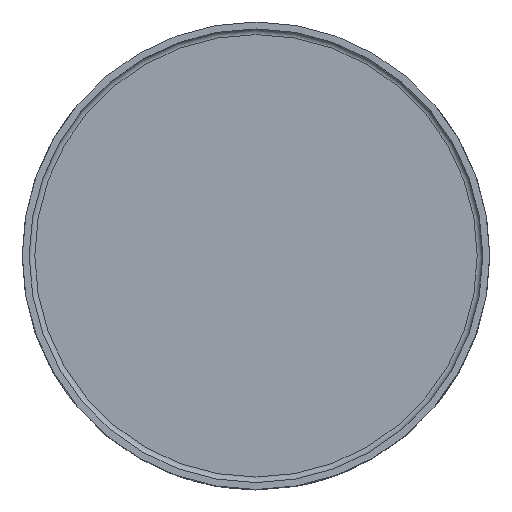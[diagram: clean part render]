
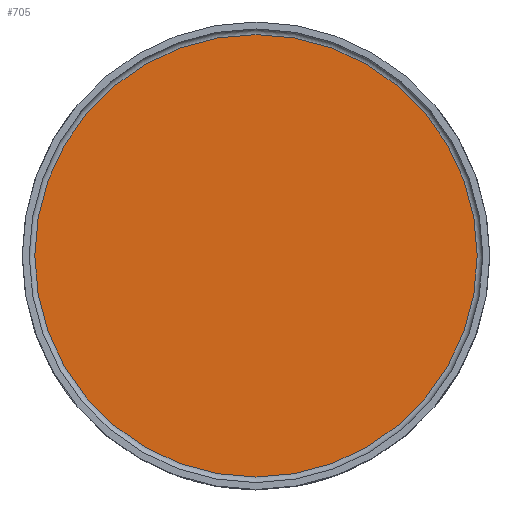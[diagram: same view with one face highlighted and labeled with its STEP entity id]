
A CAD part, top view. The second image highlights one B-rep face of the part: STEP entity #705.
In plain terms, the highlighted planar face has unit normal (0, 0, 1).
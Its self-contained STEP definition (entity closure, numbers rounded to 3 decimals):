
#705=ADVANCED_FACE('',(#760),#749,.T.);
#749=PLANE('',#1804);
#760=FACE_OUTER_BOUND('',#795,.T.);
#795=EDGE_LOOP('',(#887));
#887=ORIENTED_EDGE('',*,*,#1542,.T.);
#1324=VERTEX_POINT('',#2086);
#1542=EDGE_CURVE('',#1324,#1324,#1764,.T.);
#1764=CIRCLE('',#1803,11.83);
#1803=AXIS2_PLACEMENT_3D('',#2085,#1906,#1907);
#1804=AXIS2_PLACEMENT_3D('',#2087,#1908,#1909);
#1906=DIRECTION('',(0.,0.,1.));
#1907=DIRECTION('',(1.,0.,0.));
#1908=DIRECTION('',(0.,0.,1.));
#1909=DIRECTION('',(1.,0.,0.));
#2085=CARTESIAN_POINT('',(0.,0.,-2.05));
#2086=CARTESIAN_POINT('',(11.83,0.,-2.05));
#2087=CARTESIAN_POINT('',(0.,0.,-2.05));
